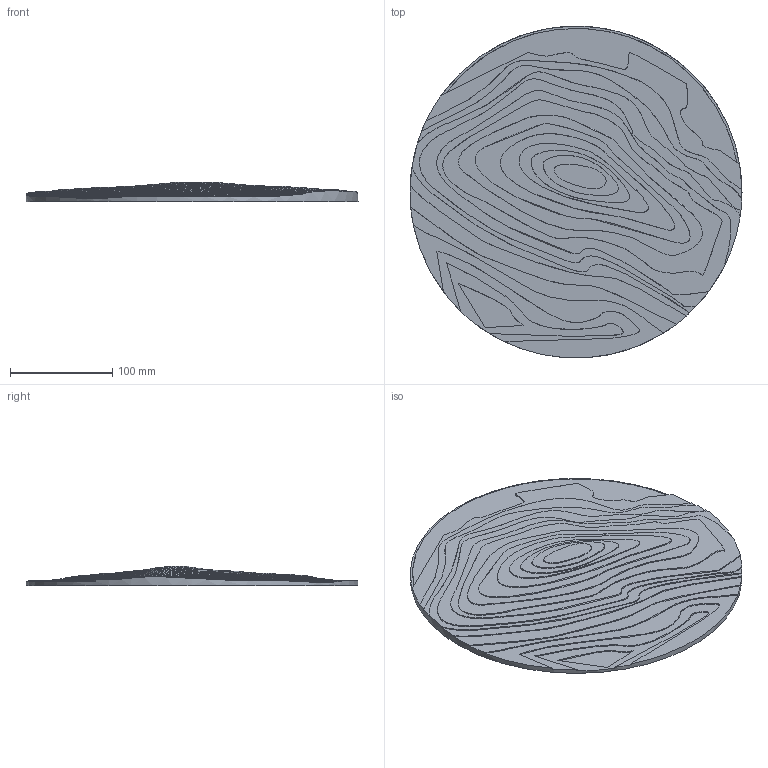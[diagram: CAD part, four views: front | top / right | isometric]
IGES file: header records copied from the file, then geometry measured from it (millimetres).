
Global section: file name: Topo-gorbea-3d v1; native system: unknown; preprocessor: unknown; author: alberto_aml_92@hotmail.com; organization: unknown; date: 20190315.155943; units: millimetre
Bounding box: 325 x 324.76 x 19 mm (x, y, z)
Volume: 759287.5 mm3; surface area: 180065.9 mm2
Topology: 1 solids, 1 shells, 109 faces, 302 edges, 204 vertices
Faces by surface type: bspline 109
